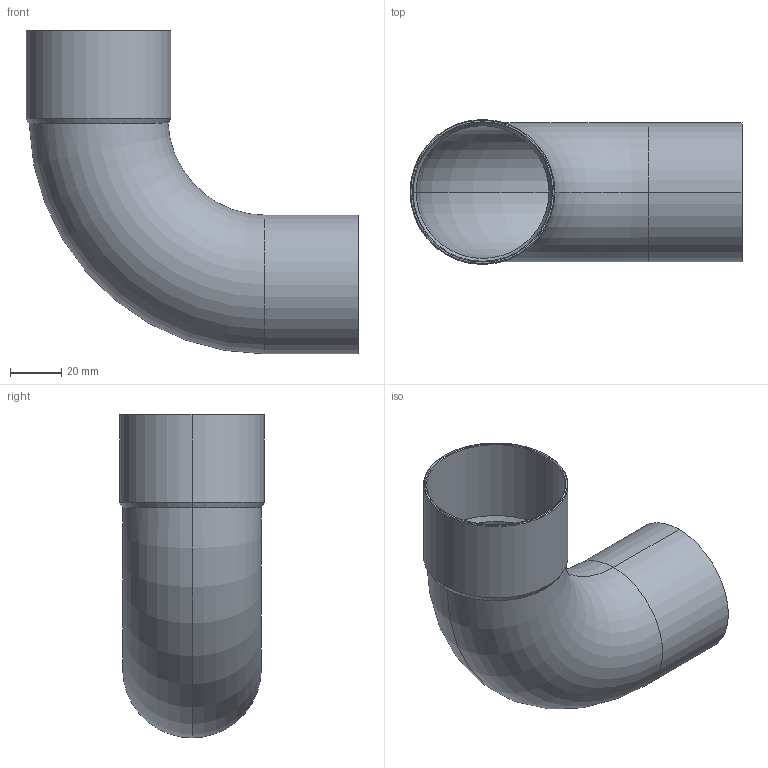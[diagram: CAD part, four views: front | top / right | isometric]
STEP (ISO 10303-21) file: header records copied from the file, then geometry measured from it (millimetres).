
FILE_DESCRIPTION((''),'2;1');
FILE_NAME('P:\Bouwmaten\z-maattekeningen 3D\5000\5001a\15001a54.stp','2005-10-04T14:54:11',('Kris'),(''),'Autodesk Inventor 8','Autodesk Inventor 8','');
FILE_SCHEMA(('AUTOMOTIVE_DESIGN { 1 0 10303 214 1 1 1 1 }'));
Length unit declared in the file: millimetre
Products named in the file (1): 15001a54
Bounding box: 129.2 x 56.4 x 126 mm (x, y, z)
Volume: 34642.1 mm3; surface area: 58109 mm2
Topology: 1 solids, 1 shells, 22 faces, 46 edges, 26 vertices
Faces by surface type: cone 8, cylinder 8, torus 4, plane 2
Entity records: 681 total; most frequent: CARTESIAN_POINT 173, DIRECTION 114, ORIENTED_EDGE 92, AXIS2_PLACEMENT_3D 49, EDGE_CURVE 46, VERTEX_POINT 26, CIRCLE 26, EDGE_LOOP 24
